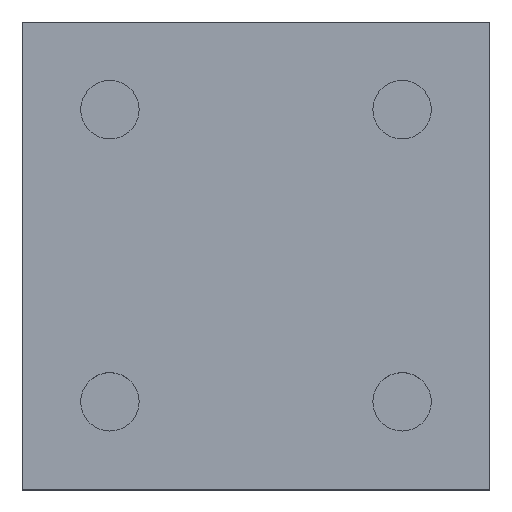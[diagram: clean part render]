
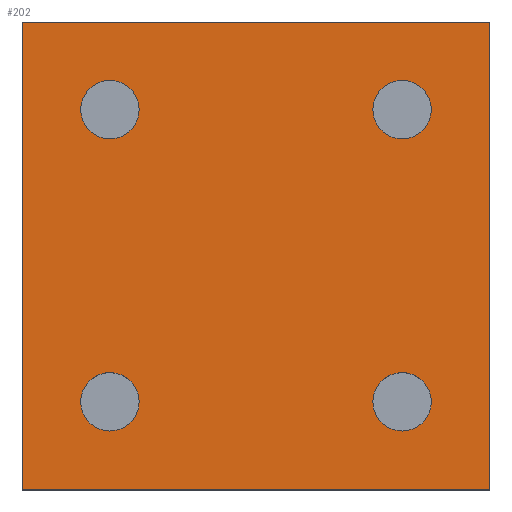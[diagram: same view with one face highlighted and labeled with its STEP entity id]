
A CAD part, top view. The second image highlights one B-rep face of the part: STEP entity #202.
In plain terms, the highlighted planar face has unit normal (0, 0, 1).
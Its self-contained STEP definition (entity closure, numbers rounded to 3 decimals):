
#15=FACE_BOUND('',#55,.T.);
#16=FACE_BOUND('',#56,.T.);
#17=FACE_BOUND('',#57,.T.);
#18=FACE_BOUND('',#58,.T.);
#19=CIRCLE('',#225,5.);
#21=CIRCLE('',#228,5.);
#23=CIRCLE('',#231,5.);
#25=CIRCLE('',#234,5.);
#40=FACE_OUTER_BOUND('',#54,.T.);
#54=EDGE_LOOP('',(#171,#172,#173,#174));
#55=EDGE_LOOP('',(#175));
#56=EDGE_LOOP('',(#176));
#57=EDGE_LOOP('',(#177));
#58=EDGE_LOOP('',(#178));
#68=LINE('',#319,#84);
#71=LINE('',#324,#87);
#76=LINE('',#351,#92);
#78=LINE('',#354,#94);
#84=VECTOR('',#254,10.);
#87=VECTOR('',#259,10.);
#92=VECTOR('',#290,10.);
#94=VECTOR('',#294,10.);
#99=VERTEX_POINT('',#316);
#100=VERTEX_POINT('',#318);
#101=VERTEX_POINT('',#322);
#102=VERTEX_POINT('',#326);
#104=VERTEX_POINT('',#332);
#106=VERTEX_POINT('',#338);
#108=VERTEX_POINT('',#344);
#110=VERTEX_POINT('',#350);
#116=EDGE_CURVE('',#100,#99,#68,.T.);
#119=EDGE_CURVE('',#99,#101,#71,.T.);
#120=EDGE_CURVE('',#102,#102,#19,.T.);
#123=EDGE_CURVE('',#104,#104,#21,.T.);
#126=EDGE_CURVE('',#106,#106,#23,.T.);
#129=EDGE_CURVE('',#108,#108,#25,.T.);
#132=EDGE_CURVE('',#110,#100,#76,.T.);
#134=EDGE_CURVE('',#101,#110,#78,.T.);
#171=ORIENTED_EDGE('',*,*,#119,.T.);
#172=ORIENTED_EDGE('',*,*,#134,.T.);
#173=ORIENTED_EDGE('',*,*,#132,.T.);
#174=ORIENTED_EDGE('',*,*,#116,.T.);
#175=ORIENTED_EDGE('',*,*,#120,.T.);
#176=ORIENTED_EDGE('',*,*,#129,.T.);
#177=ORIENTED_EDGE('',*,*,#126,.T.);
#178=ORIENTED_EDGE('',*,*,#123,.T.);
#188=PLANE('',#238);
#202=ADVANCED_FACE('',(#40,#15,#16,#17,#18),#188,.T.);
#225=AXIS2_PLACEMENT_3D('',#327,#262,#263);
#228=AXIS2_PLACEMENT_3D('',#333,#269,#270);
#231=AXIS2_PLACEMENT_3D('',#339,#276,#277);
#234=AXIS2_PLACEMENT_3D('',#345,#283,#284);
#238=AXIS2_PLACEMENT_3D('',#355,#295,#296);
#254=DIRECTION('',(0.,-1.,0.));
#259=DIRECTION('',(1.,0.,0.));
#262=DIRECTION('center_axis',(0.,0.,-1.));
#263=DIRECTION('ref_axis',(1.,0.,0.));
#269=DIRECTION('center_axis',(0.,0.,-1.));
#270=DIRECTION('ref_axis',(1.,0.,0.));
#276=DIRECTION('center_axis',(0.,0.,-1.));
#277=DIRECTION('ref_axis',(1.,0.,0.));
#283=DIRECTION('center_axis',(0.,0.,-1.));
#284=DIRECTION('ref_axis',(1.,0.,0.));
#290=DIRECTION('',(-1.,0.,0.));
#294=DIRECTION('',(0.,1.,0.));
#295=DIRECTION('center_axis',(0.,0.,1.));
#296=DIRECTION('ref_axis',(1.,0.,0.));
#316=CARTESIAN_POINT('',(-40.,-40.,52.));
#318=CARTESIAN_POINT('',(-40.,40.,52.));
#319=CARTESIAN_POINT('',(-40.,-40.,52.));
#322=CARTESIAN_POINT('',(40.,-40.,52.));
#324=CARTESIAN_POINT('',(40.,-40.,52.));
#326=CARTESIAN_POINT('',(-30.,-25.,52.));
#327=CARTESIAN_POINT('Origin',(-25.,-25.,52.));
#332=CARTESIAN_POINT('',(-30.,25.,52.));
#333=CARTESIAN_POINT('Origin',(-25.,25.,52.));
#338=CARTESIAN_POINT('',(20.,25.,52.));
#339=CARTESIAN_POINT('Origin',(25.,25.,52.));
#344=CARTESIAN_POINT('',(20.,-25.,52.));
#345=CARTESIAN_POINT('Origin',(25.,-25.,52.));
#350=CARTESIAN_POINT('',(40.,40.,52.));
#351=CARTESIAN_POINT('',(-40.,40.,52.));
#354=CARTESIAN_POINT('',(40.,40.,52.));
#355=CARTESIAN_POINT('Origin',(0.,0.,52.));
